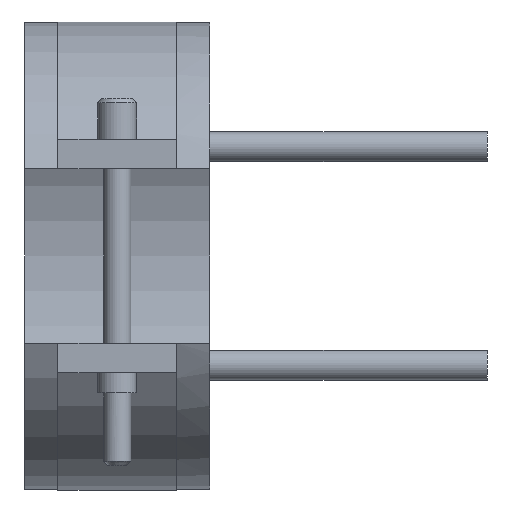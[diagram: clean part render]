
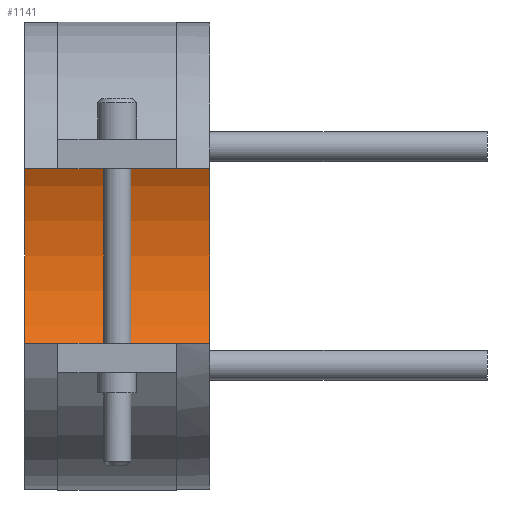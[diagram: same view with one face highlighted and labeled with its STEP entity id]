
A CAD part, front view. The second image highlights one B-rep face of the part: STEP entity #1141.
In plain terms, the highlighted cylindrical face has radius 27.5 mm (diameter 55 mm), a partial arc.
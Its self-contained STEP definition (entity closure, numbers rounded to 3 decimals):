
#822=CARTESIAN_POINT('Vertex',(-12.5,0.,-27.5)) ;
#829=CARTESIAN_POINT('Vertex',(12.5,0.,-27.5)) ;
#832=CARTESIAN_POINT('Line Origine',(12.5,0.,-27.5)) ;
#850=CARTESIAN_POINT('Axis2P3D Location',(-12.5,0.,0.)) ;
#854=CARTESIAN_POINT('Vertex',(-12.5,0.,27.5)) ;
#911=CARTESIAN_POINT('Vertex',(12.5,0.,27.5)) ;
#921=CARTESIAN_POINT('Line Origine',(12.5,0.,27.5)) ;
#1012=CARTESIAN_POINT('Axis2P3D Location',(12.5,0.,0.)) ;
#1130=CARTESIAN_POINT('Axis2P3D Location',(12.5,0.,0.)) ;
#833=DIRECTION('Vector Direction',(1.,0.,0.)) ;
#851=DIRECTION('Axis2P3D Direction',(1.,0.,0.)) ;
#922=DIRECTION('Vector Direction',(1.,0.,0.)) ;
#1013=DIRECTION('Axis2P3D Direction',(1.,0.,0.)) ;
#1131=DIRECTION('Axis2P3D Direction',(1.,0.,-0.)) ;
#1132=DIRECTION('Axis2P3D XDirection',(0.,0.,-1.)) ;
#852=AXIS2_PLACEMENT_3D('Circle Axis2P3D',#850,#851,$) ;
#1014=AXIS2_PLACEMENT_3D('Circle Axis2P3D',#1012,#1013,$) ;
#1133=AXIS2_PLACEMENT_3D('Cylinder Axis2P3D',#1130,#1131,#1132) ;
#1136=ORIENTED_EDGE('',*,*,#1016,.T.) ;
#1137=ORIENTED_EDGE('',*,*,#925,.T.) ;
#1138=ORIENTED_EDGE('',*,*,#856,.F.) ;
#1139=ORIENTED_EDGE('',*,*,#836,.T.) ;
#834=VECTOR('Line Direction',#833,1.) ;
#923=VECTOR('Line Direction',#922,1.) ;
#1141=ADVANCED_FACE('14055025',(#1140),#1134,.F.) ;
#853=CIRCLE('generated circle',#852,27.5) ;
#1015=CIRCLE('generated circle',#1014,27.5) ;
#1134=CYLINDRICAL_SURFACE('generated cylinder',#1133,27.5) ;
#836=EDGE_CURVE('',#823,#830,#835,.T.) ;
#856=EDGE_CURVE('',#823,#855,#853,.T.) ;
#925=EDGE_CURVE('',#912,#855,#924,.F.) ;
#1016=EDGE_CURVE('',#830,#912,#1015,.T.) ;
#1135=EDGE_LOOP('',(#1136,#1137,#1138,#1139)) ;
#1140=FACE_OUTER_BOUND('',#1135,.T.) ;
#835=LINE('Line',#832,#834) ;
#924=LINE('Line',#921,#923) ;
#823=VERTEX_POINT('',#822) ;
#830=VERTEX_POINT('',#829) ;
#855=VERTEX_POINT('',#854) ;
#912=VERTEX_POINT('',#911) ;
